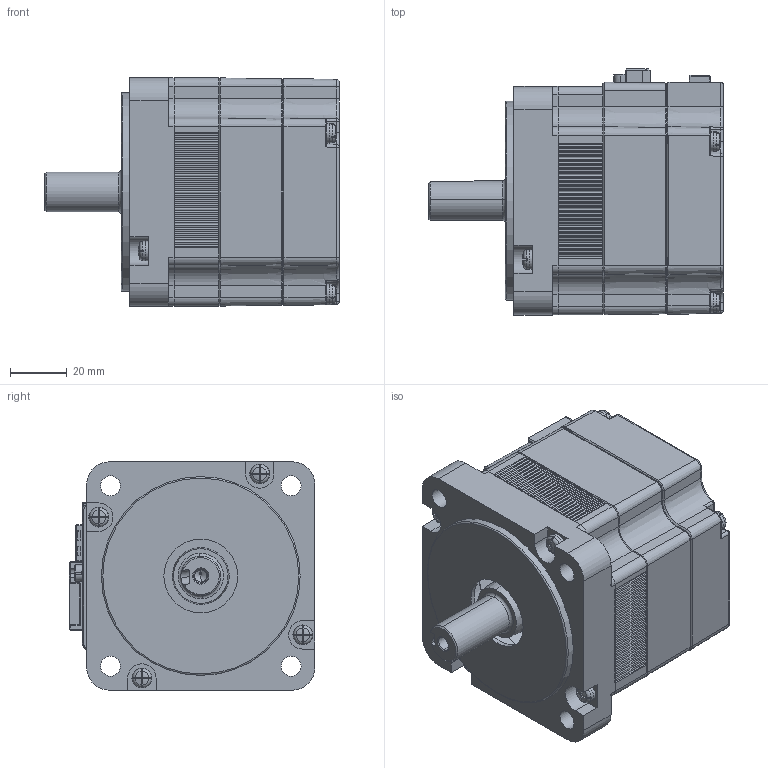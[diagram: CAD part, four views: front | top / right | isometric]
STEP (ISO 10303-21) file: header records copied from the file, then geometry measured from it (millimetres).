
FILE_DESCRIPTION (( 'STEP AP203' ), '1' );
FILE_NAME ('80-200W_NB(諼睡 歎睡辨).STEP', '2022-09-07T06:47:39', ( '' ), ( '' ), 'SwSTEP 2.0', 'SolidWorks 2020', '' );
FILE_SCHEMA (( 'CONFIG_CONTROL_DESIGN' ));
Length unit declared in the file: millimetre
Products named in the file (10): POWER RECEPTACLE.STEP; __80 ENCODER COVER___________ ______.STEP; 80-750W Ы楠雖; __80-200W NON-BRAKE SHAFT.STEP; __80 BRACKET(NON BRAKE)___________ ______.STEP; __80-200W FRAME.STEP; 80-200W_NB(諼睡 歎睡辨); ENCODER Receptacle.STEP; __80-200W MAGNET.STEP; m4x30_____.STEP
Assembly tree (16 placements, depth 2):
  80-200W_NB(諼睡 歎睡辨)
    __80-200W FRAME.STEP
    __80-200W MAGNET.STEP
    __80-200W NON-BRAKE SHAFT.STEP
    ENCODER Receptacle.STEP
    POWER RECEPTACLE.STEP
    m4x30_____.STEP  x8
    __80 BRACKET(NON BRAKE)___________ ______.STEP
    __80 ENCODER COVER___________ ______.STEP
    80-750W Ы楠雖
Bounding box: 103.8 x 86.6 x 80.4 mm (x, y, z)
Volume: 174472.8 mm3; surface area: 91982 mm2
Topology: 16 solids, 22 shells, 2140 faces, 5524 edges, 3488 vertices
Faces by surface type: plane 1068, cylinder 617, bspline 192, cone 156, torus 63, sphere 44
Full cylindrical faces by diameter (mm): 4.5 x4, 7 x4, 26 x1, 47 x1, 51 x1, 69.998 x1, 75.798 x1
Entity records: 65088 total; most frequent: CARTESIAN_POINT 17353, ORIENTED_EDGE 9898, DIRECTION 9493, EDGE_CURVE 4949, AXIS2_PLACEMENT_3D 3221, VERTEX_POINT 3136, VECTOR 3051, LINE 3051
